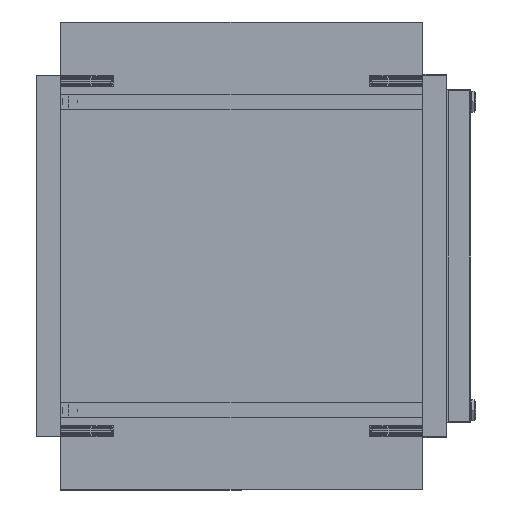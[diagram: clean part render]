
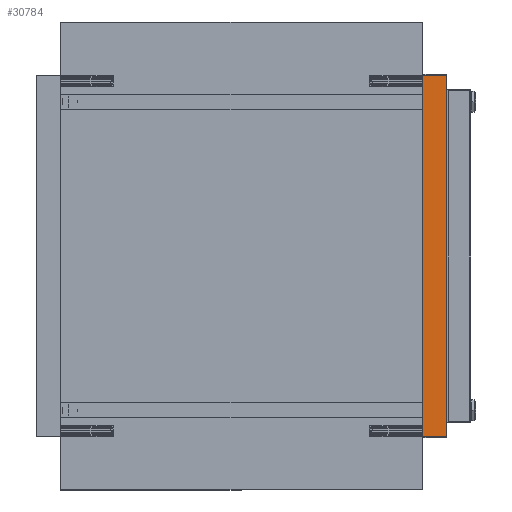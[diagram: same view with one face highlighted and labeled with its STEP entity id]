
A CAD part, left-side view. The second image highlights one B-rep face of the part: STEP entity #30784.
In plain terms, the highlighted planar face has unit normal (-1, 0, 0).
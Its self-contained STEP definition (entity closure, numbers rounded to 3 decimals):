
#1100 = DIRECTION ( 'NONE',  ( 0., 0., -1. ) ) ;
#1274 = PLANE ( 'NONE',  #19267 ) ;
#2629 = VECTOR ( 'NONE', #22583, 1000. ) ;
#3207 = CARTESIAN_POINT ( 'NONE',  ( -967.5, -12.5, 187.5 ) ) ;
#3638 = ORIENTED_EDGE ( 'NONE', *, *, #11912, .T. ) ;
#5914 = CARTESIAN_POINT ( 'NONE',  ( -967.5, 12.5, 187.5 ) ) ;
#6399 = CARTESIAN_POINT ( 'NONE',  ( -967.5, -12.5, -187.5 ) ) ;
#8196 = VERTEX_POINT ( 'NONE', #3207 ) ;
#9546 = VERTEX_POINT ( 'NONE', #10097 ) ;
#10097 = CARTESIAN_POINT ( 'NONE',  ( -967.5, 12.5, -187.5 ) ) ;
#11326 = VERTEX_POINT ( 'NONE', #22664 ) ;
#11912 = EDGE_CURVE ( 'NONE', #9546, #33183, #33712, .T. ) ;
#12355 = DIRECTION ( 'NONE',  ( 0., 0., 1. ) ) ;
#12524 = CARTESIAN_POINT ( 'NONE',  ( -967.5, 12.5, -187.5 ) ) ;
#12536 = VECTOR ( 'NONE', #14893, 1000. ) ;
#13416 = ORIENTED_EDGE ( 'NONE', *, *, #30806, .T. ) ;
#14447 = EDGE_LOOP ( 'NONE', ( #13416, #17450, #27654, #3638 ) ) ;
#14621 = EDGE_CURVE ( 'NONE', #11326, #8196, #19549, .T. ) ;
#14720 = DIRECTION ( 'NONE',  ( 1., 0., 0. ) ) ;
#14893 = DIRECTION ( 'NONE',  ( 0., 0., 1. ) ) ;
#15049 = EDGE_CURVE ( 'NONE', #9546, #11326, #15365, .T. ) ;
#15365 = LINE ( 'NONE', #12524, #20643 ) ;
#16330 = VECTOR ( 'NONE', #16534, 1000. ) ;
#16534 = DIRECTION ( 'NONE',  ( 0., -1., 0. ) ) ;
#17028 = CARTESIAN_POINT ( 'NONE',  ( -967.5, 12.5, -187.5 ) ) ;
#17450 = ORIENTED_EDGE ( 'NONE', *, *, #14621, .F. ) ;
#19267 = AXIS2_PLACEMENT_3D ( 'NONE', #17028, #14720, #1100 ) ;
#19549 = LINE ( 'NONE', #5914, #16330 ) ;
#19863 = LINE ( 'NONE', #6399, #12536 ) ;
#20643 = VECTOR ( 'NONE', #12355, 1000. ) ;
#22286 = CARTESIAN_POINT ( 'NONE',  ( -967.5, -12.5, -187.5 ) ) ;
#22583 = DIRECTION ( 'NONE',  ( 0., -1., 0. ) ) ;
#22664 = CARTESIAN_POINT ( 'NONE',  ( -967.5, 12.5, 187.5 ) ) ;
#25710 = FACE_OUTER_BOUND ( 'NONE', #14447, .T. ) ;
#25790 = CARTESIAN_POINT ( 'NONE',  ( -967.5, 12.5, -187.5 ) ) ;
#27654 = ORIENTED_EDGE ( 'NONE', *, *, #15049, .F. ) ;
#30784 = ADVANCED_FACE ( 'NONE', ( #25710 ), #1274, .F. ) ;
#30806 = EDGE_CURVE ( 'NONE', #33183, #8196, #19863, .T. ) ;
#33183 = VERTEX_POINT ( 'NONE', #22286 ) ;
#33712 = LINE ( 'NONE', #25790, #2629 ) ;
